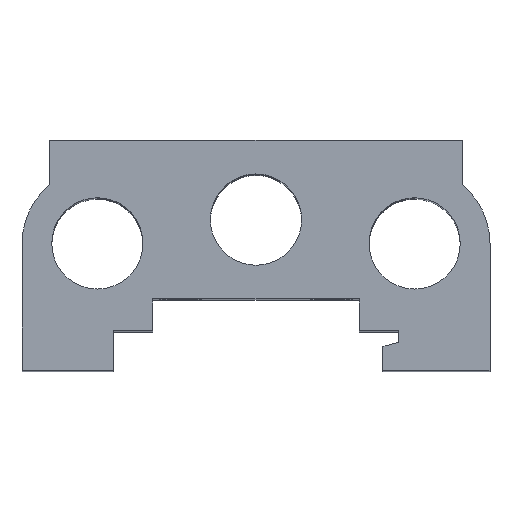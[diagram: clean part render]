
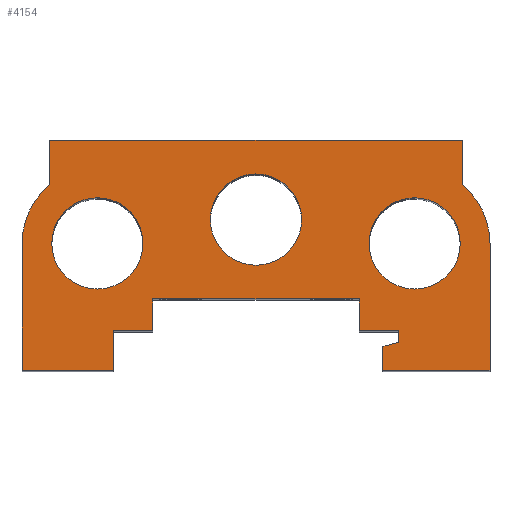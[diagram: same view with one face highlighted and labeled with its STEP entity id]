
A CAD part, top view. The second image highlights one B-rep face of the part: STEP entity #4154.
In plain terms, the highlighted planar face has unit normal (0, 0, 1).
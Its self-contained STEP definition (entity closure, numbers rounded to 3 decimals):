
#3306=CARTESIAN_POINT('',(25.75,16.0,102.));
#3307=VERTEX_POINT('',#3306);
#3308=CARTESIAN_POINT('',(20.0,16.0,102.));
#3309=DIRECTION('',(0.0,0.0,-1.0));
#3310=DIRECTION('',(-1.0,0.0,0.0));
#3311=AXIS2_PLACEMENT_3D('',#3308,#3309,#3310);
#3312=CIRCLE('',#3311,5.75);
#3313=EDGE_CURVE('',#3307,#3307,#3312,.T.);
#3346=CARTESIAN_POINT('',(5.75,19.0,102.));
#3347=VERTEX_POINT('',#3346);
#3348=CARTESIAN_POINT('',(0.0,19.0,102.));
#3349=DIRECTION('',(0.0,0.0,-1.0));
#3350=DIRECTION('',(-1.0,0.0,0.0));
#3351=AXIS2_PLACEMENT_3D('',#3348,#3349,#3350);
#3352=CIRCLE('',#3351,5.75);
#3353=EDGE_CURVE('',#3347,#3347,#3352,.T.);
#3383=CARTESIAN_POINT('',(-14.25,16.0,102.));
#3384=VERTEX_POINT('',#3383);
#3385=CARTESIAN_POINT('',(-20.0,16.0,102.));
#3386=DIRECTION('',(0.0,0.0,-1.0));
#3387=DIRECTION('',(-1.0,0.0,0.0));
#3388=AXIS2_PLACEMENT_3D('',#3385,#3386,#3387);
#3389=CIRCLE('',#3388,5.75);
#3390=EDGE_CURVE('',#3384,#3384,#3389,.T.);
#3423=CARTESIAN_POINT('',(-29.5,16.,102.));
#3424=VERTEX_POINT('',#3423);
#3425=CARTESIAN_POINT('',(-26.,23.365,102.));
#3426=VERTEX_POINT('',#3425);
#3427=CARTESIAN_POINT('',(-20.0,16.0,102.));
#3428=DIRECTION('',(0.0,0.0,-1.0));
#3429=DIRECTION('',(-0.632,0.775,0.0));
#3430=AXIS2_PLACEMENT_3D('',#3427,#3428,#3429);
#3431=CIRCLE('',#3430,9.5);
#3432=EDGE_CURVE('',#3424,#3426,#3431,.T.);
#3465=CARTESIAN_POINT('',(-26.,29.,102.));
#3466=VERTEX_POINT('',#3465);
#3467=CARTESIAN_POINT('',(-26.,23.365,102.));
#3468=DIRECTION('',(0.0,1.0,0.0));
#3469=VECTOR('',#3468,5.635);
#3470=LINE('',#3467,#3469);
#3471=EDGE_CURVE('',#3426,#3466,#3470,.T.);
#3496=CARTESIAN_POINT('',(26.,29.,102.));
#3497=VERTEX_POINT('',#3496);
#3498=CARTESIAN_POINT('',(-26.,29.,102.));
#3499=DIRECTION('',(1.0,0.0,0.0));
#3500=VECTOR('',#3499,52.);
#3501=LINE('',#3498,#3500);
#3502=EDGE_CURVE('',#3466,#3497,#3501,.T.);
#3602=CARTESIAN_POINT('',(26.0,23.365,102.));
#3603=VERTEX_POINT('',#3602);
#3604=CARTESIAN_POINT('',(26.,29.,102.));
#3605=DIRECTION('',(0.0,-1.0,0.0));
#3606=VECTOR('',#3605,5.635);
#3607=LINE('',#3604,#3606);
#3608=EDGE_CURVE('',#3497,#3603,#3607,.T.);
#3633=CARTESIAN_POINT('',(29.5,16.0,102.));
#3634=VERTEX_POINT('',#3633);
#3635=CARTESIAN_POINT('',(20.0,16.0,102.));
#3636=DIRECTION('',(0.0,0.0,-1.0));
#3637=DIRECTION('',(1.0,0.0,0.0));
#3638=AXIS2_PLACEMENT_3D('',#3635,#3636,#3637);
#3639=CIRCLE('',#3638,9.5);
#3640=EDGE_CURVE('',#3603,#3634,#3639,.T.);
#3666=CARTESIAN_POINT('',(29.5,0.0,102.));
#3667=VERTEX_POINT('',#3666);
#3668=CARTESIAN_POINT('',(29.5,16.0,102.));
#3669=DIRECTION('',(0.0,-1.0,0.0));
#3670=VECTOR('',#3669,16.0);
#3671=LINE('',#3668,#3670);
#3672=EDGE_CURVE('',#3634,#3667,#3671,.T.);
#3697=CARTESIAN_POINT('',(16.,0.0,102.));
#3698=VERTEX_POINT('',#3697);
#3699=CARTESIAN_POINT('',(29.5,0.0,102.));
#3700=DIRECTION('',(-1.0,0.0,0.0));
#3701=VECTOR('',#3700,13.5);
#3702=LINE('',#3699,#3701);
#3703=EDGE_CURVE('',#3667,#3698,#3702,.T.);
#3728=CARTESIAN_POINT('',(16.,3.,102.));
#3729=VERTEX_POINT('',#3728);
#3730=CARTESIAN_POINT('',(16.,0.0,102.));
#3731=DIRECTION('',(0.0,1.0,0.0));
#3732=VECTOR('',#3731,3.);
#3733=LINE('',#3730,#3732);
#3734=EDGE_CURVE('',#3698,#3729,#3733,.T.);
#3759=CARTESIAN_POINT('',(18.0,3.536,102.));
#3760=VERTEX_POINT('',#3759);
#3761=CARTESIAN_POINT('',(16.,3.,102.));
#3762=DIRECTION('',(0.966,0.259,0.0));
#3763=VECTOR('',#3762,2.071);
#3764=LINE('',#3761,#3763);
#3765=EDGE_CURVE('',#3729,#3760,#3764,.T.);
#3790=CARTESIAN_POINT('',(18.,5.0,102.));
#3791=VERTEX_POINT('',#3790);
#3792=CARTESIAN_POINT('',(18.0,3.536,102.));
#3793=DIRECTION('',(0.0,1.0,0.0));
#3794=VECTOR('',#3793,1.464);
#3795=LINE('',#3792,#3794);
#3796=EDGE_CURVE('',#3760,#3791,#3795,.T.);
#3821=CARTESIAN_POINT('',(13.0,5.0,102.));
#3822=VERTEX_POINT('',#3821);
#3823=CARTESIAN_POINT('',(18.,5.0,102.));
#3824=DIRECTION('',(-1.0,0.0,0.0));
#3825=VECTOR('',#3824,5.);
#3826=LINE('',#3823,#3825);
#3827=EDGE_CURVE('',#3791,#3822,#3826,.T.);
#3852=CARTESIAN_POINT('',(13.0,9.0,102.));
#3853=VERTEX_POINT('',#3852);
#3854=CARTESIAN_POINT('',(13.0,5.0,102.));
#3855=DIRECTION('',(0.0,1.0,0.0));
#3856=VECTOR('',#3855,4.0);
#3857=LINE('',#3854,#3856);
#3858=EDGE_CURVE('',#3822,#3853,#3857,.T.);
#3883=CARTESIAN_POINT('',(-13.0,9.0,102.));
#3884=VERTEX_POINT('',#3883);
#3885=CARTESIAN_POINT('',(13.0,9.0,102.));
#3886=DIRECTION('',(-1.0,0.0,0.0));
#3887=VECTOR('',#3886,26.0);
#3888=LINE('',#3885,#3887);
#3889=EDGE_CURVE('',#3853,#3884,#3888,.T.);
#3944=CARTESIAN_POINT('',(-13.0,5.0,102.));
#3945=VERTEX_POINT('',#3944);
#3946=CARTESIAN_POINT('',(-13.0,9.0,102.));
#3947=DIRECTION('',(0.0,-1.0,0.0));
#3948=VECTOR('',#3947,4.0);
#3949=LINE('',#3946,#3948);
#3950=EDGE_CURVE('',#3884,#3945,#3949,.T.);
#3975=CARTESIAN_POINT('',(-18.0,5.0,102.));
#3976=VERTEX_POINT('',#3975);
#3977=CARTESIAN_POINT('',(-13.0,5.0,102.));
#3978=DIRECTION('',(-1.0,0.0,0.0));
#3979=VECTOR('',#3978,5.0);
#3980=LINE('',#3977,#3979);
#3981=EDGE_CURVE('',#3945,#3976,#3980,.T.);
#4006=CARTESIAN_POINT('',(-18.0,0.0,102.));
#4007=VERTEX_POINT('',#4006);
#4008=CARTESIAN_POINT('',(-18.0,5.0,102.));
#4009=DIRECTION('',(0.0,-1.0,0.0));
#4010=VECTOR('',#4009,5.0);
#4011=LINE('',#4008,#4010);
#4012=EDGE_CURVE('',#3976,#4007,#4011,.T.);
#4037=CARTESIAN_POINT('',(-29.5,0.0,102.));
#4038=VERTEX_POINT('',#4037);
#4039=CARTESIAN_POINT('',(-18.0,0.0,102.));
#4040=DIRECTION('',(-1.0,0.0,0.0));
#4041=VECTOR('',#4040,11.5);
#4042=LINE('',#4039,#4041);
#4043=EDGE_CURVE('',#4007,#4038,#4042,.T.);
#4068=CARTESIAN_POINT('',(-29.5,0.0,102.));
#4069=DIRECTION('',(0.0,1.0,0.0));
#4070=VECTOR('',#4069,16.);
#4071=LINE('',#4068,#4070);
#4072=EDGE_CURVE('',#4038,#3424,#4071,.T.);
#4120=CARTESIAN_POINT('',(0.278,14.351,102.));
#4121=DIRECTION('',(0.0,0.0,1.0));
#4122=DIRECTION('',(1.0,0.0,0.0));
#4123=AXIS2_PLACEMENT_3D('',#4120,#4121,#4122);
#4124=PLANE('',#4123);
#4125=ORIENTED_EDGE('',*,*,#3432,.F.);
#4126=ORIENTED_EDGE('',*,*,#4072,.F.);
#4127=ORIENTED_EDGE('',*,*,#4043,.F.);
#4128=ORIENTED_EDGE('',*,*,#4012,.F.);
#4129=ORIENTED_EDGE('',*,*,#3981,.F.);
#4130=ORIENTED_EDGE('',*,*,#3950,.F.);
#4131=ORIENTED_EDGE('',*,*,#3889,.F.);
#4132=ORIENTED_EDGE('',*,*,#3858,.F.);
#4133=ORIENTED_EDGE('',*,*,#3827,.F.);
#4134=ORIENTED_EDGE('',*,*,#3796,.F.);
#4135=ORIENTED_EDGE('',*,*,#3765,.F.);
#4136=ORIENTED_EDGE('',*,*,#3734,.F.);
#4137=ORIENTED_EDGE('',*,*,#3703,.F.);
#4138=ORIENTED_EDGE('',*,*,#3672,.F.);
#4139=ORIENTED_EDGE('',*,*,#3640,.F.);
#4140=ORIENTED_EDGE('',*,*,#3608,.F.);
#4141=ORIENTED_EDGE('',*,*,#3502,.F.);
#4142=ORIENTED_EDGE('',*,*,#3471,.F.);
#4143=EDGE_LOOP('',(#4125,#4126,#4127,#4128,#4129,#4130,#4131,#4132,#4133,#4134,#4135,#4136,#4137,#4138,#4139,#4140,#4141,#4142));
#4144=FACE_OUTER_BOUND('',#4143,.T.);
#4145=ORIENTED_EDGE('',*,*,#3313,.T.);
#4146=EDGE_LOOP('',(#4145));
#4147=FACE_BOUND('',#4146,.T.);
#4148=ORIENTED_EDGE('',*,*,#3353,.T.);
#4149=EDGE_LOOP('',(#4148));
#4150=FACE_BOUND('',#4149,.T.);
#4151=ORIENTED_EDGE('',*,*,#3390,.T.);
#4152=EDGE_LOOP('',(#4151));
#4153=FACE_BOUND('',#4152,.T.);
#4154=ADVANCED_FACE('',(#4144,#4147,#4150,#4153),#4124,.T.);
